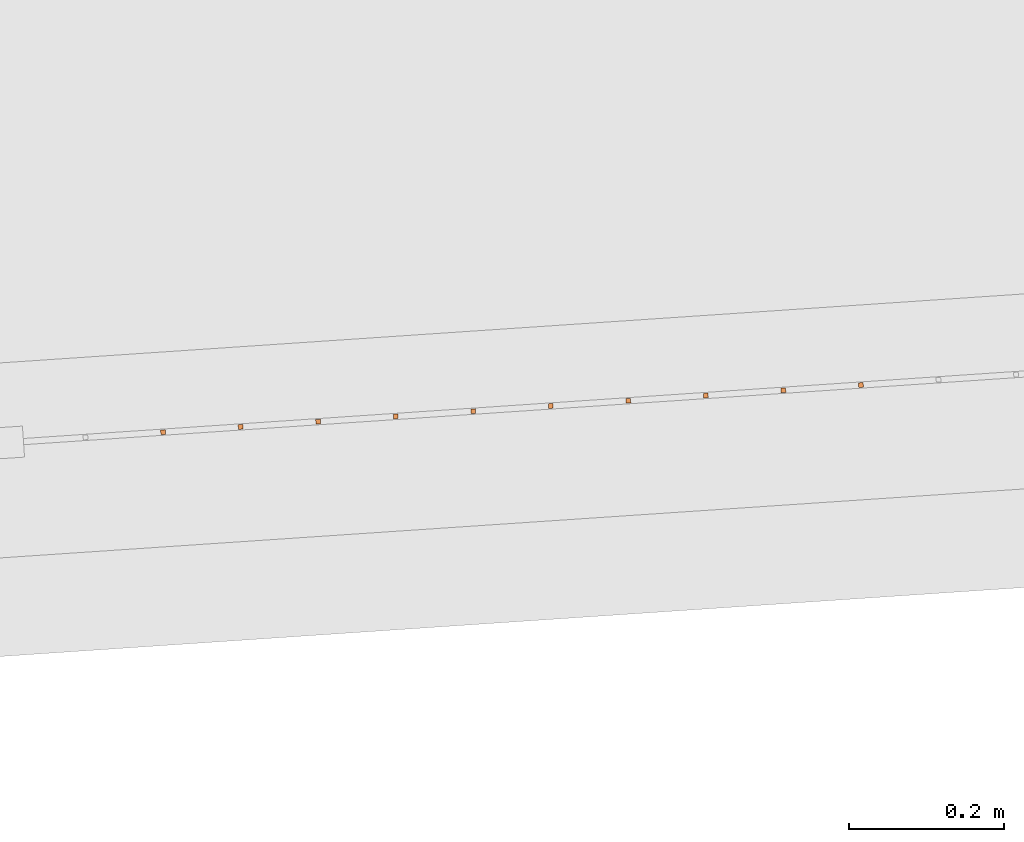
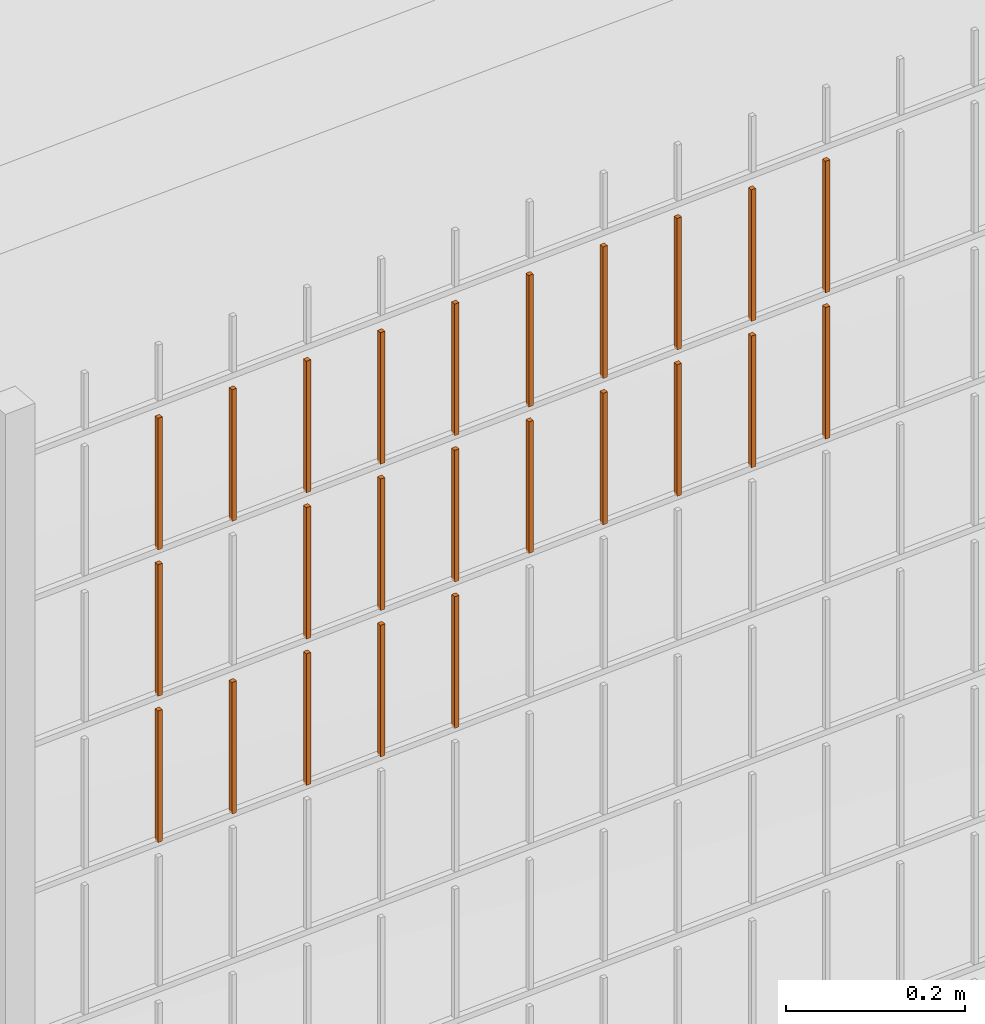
# One storey, part 382 of 1809: 24 proxies, 1 element without a shape of its own.
"""IFC2X3 building model written with IfcOpenShell, lengths in millimetres."""

from ifc_helpers import new_model, entity, si_unit, converted_unit, derived_unit, money_unit, direction, frame, origin_with_axes, place, context, subcontext, project, spatial, faceted_brep, source, transform, mapped, material, type_object, element, aggregate, save


model = new_model("IFC2X3")

# Units and contexts
model_context = context("Model", 3, precision=0.01, world=origin_with_axes(), true_north=direction((0.0, 1.0)))
body_context = subcontext(model_context, "Body", "Model", "MODEL_VIEW")
ifc_project = project(units=[si_unit("LENGTHUNIT", "METRE", prefix="MILLI"), si_unit("AREAUNIT", "SQUARE_METRE"), si_unit("VOLUMEUNIT", "CUBIC_METRE"), converted_unit("PLANEANGLEUNIT", "DEGREE", entity("IfcPlaneAngleMeasure", 0.0174532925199), si_unit("PLANEANGLEUNIT", "RADIAN"), dimensions=[0, 0, 0, 0, 0, 0, 0]), si_unit("SOLIDANGLEUNIT", "STERADIAN"), money_unit("EUR"), converted_unit("TIMEUNIT", "Year", entity("IfcTimeMeasure", 31556926.0), si_unit("TIMEUNIT", "SECOND"), dimensions=[0, 0, 1, 0, 0, 0, 0]), si_unit("MASSUNIT", "GRAM", prefix="KILO"), si_unit("THERMODYNAMICTEMPERATUREUNIT", "DEGREE_CELSIUS"), si_unit("LUMINOUSINTENSITYUNIT", "LUMEN"), si_unit("ENERGYUNIT", "JOULE", prefix="MEGA"), derived_unit("THERMALCONDUCTANCEUNIT", [(si_unit("POWERUNIT", "WATT"), 1), (si_unit("LENGTHUNIT", "METRE"), -1), (si_unit("THERMODYNAMICTEMPERATUREUNIT", "KELVIN"), -1)]), derived_unit("SPECIFICHEATCAPACITYUNIT", [(si_unit("ENERGYUNIT", "JOULE"), 1), (si_unit("MASSUNIT", "GRAM", prefix="KILO"), -1), (si_unit("THERMODYNAMICTEMPERATUREUNIT", "KELVIN"), -1)]), derived_unit("MASSDENSITYUNIT", [(si_unit("MASSUNIT", "GRAM", prefix="KILO"), 1), (si_unit("VOLUMEUNIT", "CUBIC_METRE"), -1)])], contexts=[model_context])

# Site, building, storey
site_placement = place(None, origin_with_axes())
site = spatial("IfcSite", under=ifc_project, at=site_placement, Name="Politse- ja Piirivalveameti ning Päästeameti ühishoone", CompositionType="ELEMENT")
building_placement = place(site_placement, origin_with_axes())
building = spatial("IfcBuilding", under=site, at=building_placement, Name="Politse- ja Piirivalveameti ning Päästeameti ühishoone", CompositionType="ELEMENT")
storey_placement = place(building_placement, origin_with_axes())
storey = spatial("IfcBuildingStorey", under=building, at=storey_placement, Name="Esimene korrus", CompositionType="ELEMENT", Elevation=0.0)

# Proxies
building_element_proxy_type_1 = type_object("IfcBuildingElementProxyType", Name="Railing Type", PredefinedType="NOTDEFINED")
proxy_1_placement = place(storey_placement, frame((89252.001212, -29183.4766571, 203.661247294), z_axis=(0.0, 0.0, 1.0), x_axis=(1.0, 0.0, 0.0)))
proxy_1 = element("IfcBuildingElementProxy", 1, at=proxy_1_placement, inside=storey, type_object=building_element_proxy_type_1, Name="PIIRDEAED")
ifc_material = material(Name="ET-03_Raud")
building_element_proxy_type_2 = type_object("IfcBuildingElementProxyType", Name="IfcBuildingElementProxy", PredefinedType="NOTDEFINED")
shared_shape_1 = source(origin_with_axes(), body_context, "Body", "Brep", [
    faceted_brep([(3.0, 3.0, -0.000752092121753), (-3.0, 3.0, -0.000752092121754), (-3.0, 3.0, 179.99926046), (3.0, 3.0, 179.99926046), (3.0, -3.0, 0.000752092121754), (-3.0, -3.0, 0.000752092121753), (-3.0, -3.0, 180.000764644), (3.0, -3.0, 180.000764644)], [[[0, 1, 2, 3]], [[0, 4, 5, 1]], [[1, 5, 6, 2]], [[3, 2, 6, 7]], [[4, 0, 3, 7]], [[5, 4, 7, 6]]]),
])
proxy_2_placement = place(proxy_1_placement, frame((-16588.8876971, -18418.2915213, 1623.0661185), z_axis=(0.0, 0.0, 1.0), x_axis=(1.0, 0.0, 0.0)))
proxy_2 = element("IfcBuildingElementProxy", 2, at=proxy_2_placement, type_object=building_element_proxy_type_2, material=ifc_material, Name="BALUSTER - 001", context=body_context, shape_type="MappedRepresentation", body=[
    mapped(shared_shape_1, transform((0.0, 0.0, 0.0), x_axis=(-0.0673926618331, 0.997726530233, 0.0), y_axis=(-0.997726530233, -0.0673926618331, 0.0), z_axis=(0.0, 0.0, 1.0))),
])
shared_shape_2 = source(origin_with_axes(), body_context, "Body", "Brep", [
    faceted_brep([(3.0, 3.0, -0.000752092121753), (-3.0, 3.0, -0.000752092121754), (-3.0, 3.0, 179.99926046), (3.0, 3.0, 179.99926046), (3.0, -3.0, 0.000752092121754), (-3.0, -3.0, 0.000752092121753), (-3.0, -3.0, 180.000764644), (3.0, -3.0, 180.000764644)], [[[0, 1, 2, 3]], [[0, 4, 5, 1]], [[1, 5, 6, 2]], [[3, 2, 6, 7]], [[4, 0, 3, 7]], [[5, 4, 7, 6]]]),
])
proxy_3_placement = place(proxy_1_placement, frame((-16588.8876971, -18418.2915213, 1823.0661185), z_axis=(0.0, 0.0, 1.0), x_axis=(1.0, 0.0, 0.0)))
proxy_3 = element("IfcBuildingElementProxy", 3, at=proxy_3_placement, type_object=building_element_proxy_type_2, material=ifc_material, Name="BALUSTER - 001", context=body_context, shape_type="MappedRepresentation", body=[
    mapped(shared_shape_2, transform((0.0, 0.0, 0.0), x_axis=(-0.0673926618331, 0.997726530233, 0.0), y_axis=(-0.997726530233, -0.0673926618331, 0.0), z_axis=(0.0, 0.0, 1.0))),
])
shared_shape_3 = source(origin_with_axes(), body_context, "Body", "Brep", [
    faceted_brep([(3.0, 3.0, -0.000752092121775), (-3.0, 3.0, -0.000752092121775), (-3.0, 3.0, 179.99926046), (3.0, 3.0, 179.99926046), (3.0, -3.0, 0.000752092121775), (-3.0, -3.0, 0.000752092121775), (-3.0, -3.0, 180.000764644), (3.0, -3.0, 180.000764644)], [[[0, 1, 2, 3]], [[0, 4, 5, 1]], [[1, 5, 6, 2]], [[3, 2, 6, 7]], [[4, 0, 3, 7]], [[5, 4, 7, 6]]]),
])
proxy_4_placement = place(proxy_1_placement, frame((-17087.7509622, -18451.9878523, 1822.94076981), z_axis=(0.0, 0.0, 1.0), x_axis=(1.0, 0.0, 0.0)))
proxy_4 = element("IfcBuildingElementProxy", 4, at=proxy_4_placement, type_object=building_element_proxy_type_2, material=ifc_material, Name="BALUSTER - 001", context=body_context, shape_type="MappedRepresentation", body=[
    mapped(shared_shape_3, transform((0.0, 0.0, 0.0), x_axis=(-0.0673926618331, 0.997726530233, 0.0), y_axis=(-0.997726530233, -0.0673926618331, 0.0), z_axis=(0.0, 0.0, 1.0))),
])
shared_shape_4 = source(origin_with_axes(), body_context, "Body", "Brep", [
    faceted_brep([(3.0, 3.0, -0.000752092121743), (-3.0, 3.0, -0.000752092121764), (-3.0, 3.0, 179.99926046), (3.0, 3.0, 179.99926046), (3.0, -3.0, 0.000752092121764), (-3.0, -3.0, 0.000752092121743), (-3.0, -3.0, 180.000764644), (3.0, -3.0, 180.000764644)], [[[0, 1, 2, 3]], [[0, 4, 5, 1]], [[1, 5, 6, 2]], [[3, 2, 6, 7]], [[4, 0, 3, 7]], [[5, 4, 7, 6]]]),
])
proxy_5_placement = place(proxy_1_placement, frame((-16289.569738, -18398.0737228, 1823.14132771), z_axis=(0.0, 0.0, 1.0), x_axis=(1.0, 0.0, 0.0)))
proxy_5 = element("IfcBuildingElementProxy", 5, at=proxy_5_placement, type_object=building_element_proxy_type_2, material=ifc_material, Name="BALUSTER - 001", context=body_context, shape_type="MappedRepresentation", body=[
    mapped(shared_shape_4, transform((0.0, 0.0, 0.0), x_axis=(-0.0673926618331, 0.997726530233, 0.0), y_axis=(-0.997726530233, -0.0673926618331, 0.0), z_axis=(0.0, 0.0, 1.0))),
])
proxy_6_placement = place(proxy_1_placement, frame((-16888.2056561, -18438.5093199, 1822.99090929), z_axis=(0.0, 0.0, 1.0), x_axis=(1.0, 0.0, 0.0)))
proxy_6 = element("IfcBuildingElementProxy", 6, at=proxy_6_placement, type_object=building_element_proxy_type_2, material=ifc_material, Name="BALUSTER - 001", context=body_context, shape_type="MappedRepresentation", body=[
    mapped(shared_shape_4, transform((0.0, 0.0, 0.0), x_axis=(-0.0673926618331, 0.997726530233, 0.0), y_axis=(-0.997726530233, -0.0673926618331, 0.0), z_axis=(0.0, 0.0, 1.0))),
])
shared_shape_5 = source(origin_with_axes(), body_context, "Body", "Brep", [
    faceted_brep([(3.0, 3.0, -0.000752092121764), (-3.0, 3.0, -0.000752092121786), (-3.0, 3.0, 179.99926046), (3.0, 3.0, 179.99926046), (3.0, -3.0, 0.000752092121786), (-3.0, -3.0, 0.000752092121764), (-3.0, -3.0, 180.000764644), (3.0, -3.0, 180.000764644)], [[[0, 1, 2, 3]], [[0, 4, 5, 1]], [[1, 5, 6, 2]], [[3, 2, 6, 7]], [[4, 0, 3, 7]], [[5, 4, 7, 6]]]),
])
proxy_7_placement = place(proxy_1_placement, frame((-16688.6603501, -18425.0307875, 1823.04104876), z_axis=(0.0, 0.0, 1.0), x_axis=(1.0, 0.0, 0.0)))
proxy_7 = element("IfcBuildingElementProxy", 7, at=proxy_7_placement, type_object=building_element_proxy_type_2, material=ifc_material, Name="BALUSTER - 001", context=body_context, shape_type="MappedRepresentation", body=[
    mapped(shared_shape_5, transform((0.0, 0.0, 0.0), x_axis=(-0.0673926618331, 0.997726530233, 0.0), y_axis=(-0.997726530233, -0.0673926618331, 0.0), z_axis=(0.0, 0.0, 1.0))),
])
shared_shape_6 = source(origin_with_axes(), body_context, "Body", "Brep", [
    faceted_brep([(3.0, 3.0, -0.000752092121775), (-3.0, 3.0, -0.000752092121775), (-3.0, 3.0, 179.99926046), (3.0, 3.0, 179.99926046), (3.0, -3.0, 0.000752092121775), (-3.0, -3.0, 0.000752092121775), (-3.0, -3.0, 180.000764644), (3.0, -3.0, 180.000764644)], [[[0, 1, 2, 3]], [[0, 4, 5, 1]], [[1, 5, 6, 2]], [[3, 2, 6, 7]], [[4, 0, 3, 7]], [[5, 4, 7, 6]]]),
])
proxy_8_placement = place(proxy_1_placement, frame((-16489.115044, -18411.5522552, 1823.09118824), z_axis=(0.0, 0.0, 1.0), x_axis=(1.0, 0.0, 0.0)))
proxy_8 = element("IfcBuildingElementProxy", 8, at=proxy_8_placement, type_object=building_element_proxy_type_2, material=ifc_material, Name="BALUSTER - 001", context=body_context, shape_type="MappedRepresentation", body=[
    mapped(shared_shape_6, transform((0.0, 0.0, 0.0), x_axis=(-0.0673926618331, 0.997726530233, 0.0), y_axis=(-0.997726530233, -0.0673926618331, 0.0), z_axis=(0.0, 0.0, 1.0))),
])
shared_shape_7 = source(origin_with_axes(), body_context, "Body", "Brep", [
    faceted_brep([(3.0, 3.0, -0.000752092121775), (-3.0, 3.0, -0.000752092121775), (-3.0, 3.0, 179.99926046), (3.0, 3.0, 179.99926046), (3.0, -3.0, 0.000752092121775), (-3.0, -3.0, 0.000752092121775), (-3.0, -3.0, 180.000764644), (3.0, -3.0, 180.000764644)], [[[0, 1, 2, 3]], [[0, 4, 5, 1]], [[1, 5, 6, 2]], [[3, 2, 6, 7]], [[4, 0, 3, 7]], [[5, 4, 7, 6]]]),
])
proxy_9_placement = place(proxy_1_placement, frame((-16389.342391, -18404.812989, 1823.11625797), z_axis=(0.0, 0.0, 1.0), x_axis=(1.0, 0.0, 0.0)))
proxy_9 = element("IfcBuildingElementProxy", 9, at=proxy_9_placement, type_object=building_element_proxy_type_2, material=ifc_material, Name="BALUSTER - 001", context=body_context, shape_type="MappedRepresentation", body=[
    mapped(shared_shape_7, transform((0.0, 0.0, 0.0), x_axis=(-0.0673926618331, 0.997726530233, 0.0), y_axis=(-0.997726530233, -0.0673926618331, 0.0), z_axis=(0.0, 0.0, 1.0))),
])
shared_shape_8 = source(origin_with_axes(), body_context, "Body", "Brep", [
    faceted_brep([(3.0, 3.0, -0.000752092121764), (-3.0, 3.0, -0.000752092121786), (-3.0, 3.0, 179.99926046), (3.0, 3.0, 179.99926046), (3.0, -3.0, 0.000752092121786), (-3.0, -3.0, 0.000752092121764), (-3.0, -3.0, 180.000764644), (3.0, -3.0, 180.000764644)], [[[0, 1, 2, 3]], [[0, 4, 5, 1]], [[1, 5, 6, 2]], [[3, 2, 6, 7]], [[4, 0, 3, 7]], [[5, 4, 7, 6]]]),
])
proxy_10_placement = place(proxy_1_placement, frame((-16189.797085, -18391.3344566, 1623.16639745), z_axis=(0.0, 0.0, 1.0), x_axis=(1.0, 0.0, 0.0)))
proxy_10 = element("IfcBuildingElementProxy", 10, at=proxy_10_placement, type_object=building_element_proxy_type_2, material=ifc_material, Name="BALUSTER - 001", context=body_context, shape_type="MappedRepresentation", body=[
    mapped(shared_shape_8, transform((0.0, 0.0, 0.0), x_axis=(-0.0673926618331, 0.997726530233, 0.0), y_axis=(-0.997726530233, -0.0673926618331, 0.0), z_axis=(0.0, 0.0, 1.0))),
])
shared_shape_9 = source(origin_with_axes(), body_context, "Body", "Brep", [
    faceted_brep([(3.0, 3.0, -0.000752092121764), (-3.0, 3.0, -0.000752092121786), (-3.0, 3.0, 179.99926046), (3.0, 3.0, 179.99926046), (3.0, -3.0, 0.000752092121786), (-3.0, -3.0, 0.000752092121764), (-3.0, -3.0, 180.000764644), (3.0, -3.0, 180.000764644)], [[[0, 1, 2, 3]], [[0, 4, 5, 1]], [[1, 5, 6, 2]], [[3, 2, 6, 7]], [[4, 0, 3, 7]], [[5, 4, 7, 6]]]),
])
proxy_11_placement = place(proxy_1_placement, frame((-16688.6603501, -18425.0307875, 1423.04104876), z_axis=(0.0, 0.0, 1.0), x_axis=(1.0, 0.0, 0.0)))
proxy_11 = element("IfcBuildingElementProxy", 11, at=proxy_11_placement, type_object=building_element_proxy_type_2, material=ifc_material, Name="BALUSTER - 001", context=body_context, shape_type="MappedRepresentation", body=[
    mapped(shared_shape_9, transform((0.0, 0.0, 0.0), x_axis=(-0.0673926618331, 0.997726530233, 0.0), y_axis=(-0.997726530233, -0.0673926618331, 0.0), z_axis=(0.0, 0.0, 1.0))),
])
shared_shape_10 = source(origin_with_axes(), body_context, "Body", "Brep", [
    faceted_brep([(3.0, 3.0, -0.000752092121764), (-3.0, 3.0, -0.000752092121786), (-3.0, 3.0, 179.99926046), (3.0, 3.0, 179.99926046), (3.0, -3.0, 0.000752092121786), (-3.0, -3.0, 0.000752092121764), (-3.0, -3.0, 180.000764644), (3.0, -3.0, 180.000764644)], [[[0, 1, 2, 3]], [[0, 4, 5, 1]], [[1, 5, 6, 2]], [[3, 2, 6, 7]], [[4, 0, 3, 7]], [[5, 4, 7, 6]]]),
])
proxy_12_placement = place(proxy_1_placement, frame((-16688.6603501, -18425.0307875, 1623.04104876), z_axis=(0.0, 0.0, 1.0), x_axis=(1.0, 0.0, 0.0)))
proxy_12 = element("IfcBuildingElementProxy", 12, at=proxy_12_placement, type_object=building_element_proxy_type_2, material=ifc_material, Name="BALUSTER - 001", context=body_context, shape_type="MappedRepresentation", body=[
    mapped(shared_shape_10, transform((0.0, 0.0, 0.0), x_axis=(-0.0673926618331, 0.997726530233, 0.0), y_axis=(-0.997726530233, -0.0673926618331, 0.0), z_axis=(0.0, 0.0, 1.0))),
])
shared_shape_11 = source(origin_with_axes(), body_context, "Body", "Brep", [
    faceted_brep([(3.0, 3.0, -0.000752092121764), (-3.0, 3.0, -0.000752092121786), (-3.0, 3.0, 179.99926046), (3.0, 3.0, 179.99926046), (3.0, -3.0, 0.000752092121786), (-3.0, -3.0, 0.000752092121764), (-3.0, -3.0, 180.000764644), (3.0, -3.0, 180.000764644)], [[[0, 1, 2, 3]], [[0, 4, 5, 1]], [[1, 5, 6, 2]], [[3, 2, 6, 7]], [[4, 0, 3, 7]], [[5, 4, 7, 6]]]),
])
proxy_13_placement = place(proxy_1_placement, frame((-16189.797085, -18391.3344566, 1823.16639745), z_axis=(0.0, 0.0, 1.0), x_axis=(1.0, 0.0, 0.0)))
proxy_13 = element("IfcBuildingElementProxy", 13, at=proxy_13_placement, type_object=building_element_proxy_type_2, material=ifc_material, Name="BALUSTER - 001", context=body_context, shape_type="MappedRepresentation", body=[
    mapped(shared_shape_11, transform((0.0, 0.0, 0.0), x_axis=(-0.0673926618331, 0.997726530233, 0.0), y_axis=(-0.997726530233, -0.0673926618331, 0.0), z_axis=(0.0, 0.0, 1.0))),
])
shared_shape_12 = source(origin_with_axes(), body_context, "Body", "Brep", [
    faceted_brep([(3.0, 3.0, -0.000752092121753), (-3.0, 3.0, -0.000752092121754), (-3.0, 3.0, 179.99926046), (3.0, 3.0, 179.99926046), (3.0, -3.0, 0.000752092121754), (-3.0, -3.0, 0.000752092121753), (-3.0, -3.0, 180.000764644), (3.0, -3.0, 180.000764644)], [[[0, 1, 2, 3]], [[0, 4, 5, 1]], [[1, 5, 6, 2]], [[3, 2, 6, 7]], [[4, 0, 3, 7]], [[5, 4, 7, 6]]]),
])
proxy_14_placement = place(proxy_1_placement, frame((-16987.9783091, -18445.2485861, 1822.96583955), z_axis=(0.0, 0.0, 1.0), x_axis=(1.0, 0.0, 0.0)))
proxy_14 = element("IfcBuildingElementProxy", 14, at=proxy_14_placement, type_object=building_element_proxy_type_2, material=ifc_material, Name="BALUSTER - 001", context=body_context, shape_type="MappedRepresentation", body=[
    mapped(shared_shape_12, transform((0.0, 0.0, 0.0), x_axis=(-0.0673926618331, 0.997726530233, 0.0), y_axis=(-0.997726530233, -0.0673926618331, 0.0), z_axis=(0.0, 0.0, 1.0))),
])
shared_shape_13 = source(origin_with_axes(), body_context, "Body", "Brep", [
    faceted_brep([(3.0, 3.0, -0.000752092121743), (-3.0, 3.0, -0.000752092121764), (-3.0, 3.0, 179.99926046), (3.0, 3.0, 179.99926046), (3.0, -3.0, 0.000752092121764), (-3.0, -3.0, 0.000752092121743), (-3.0, -3.0, 180.000764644), (3.0, -3.0, 180.000764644)], [[[0, 1, 2, 3]], [[0, 4, 5, 1]], [[1, 5, 6, 2]], [[3, 2, 6, 7]], [[4, 0, 3, 7]], [[5, 4, 7, 6]]]),
])
proxy_15_placement = place(proxy_1_placement, frame((-16788.4330031, -18431.7700537, 1423.01597902), z_axis=(0.0, 0.0, 1.0), x_axis=(1.0, 0.0, 0.0)))
proxy_15 = element("IfcBuildingElementProxy", 15, at=proxy_15_placement, type_object=building_element_proxy_type_2, material=ifc_material, Name="BALUSTER - 001", context=body_context, shape_type="MappedRepresentation", body=[
    mapped(shared_shape_13, transform((0.0, 0.0, 0.0), x_axis=(-0.0673926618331, 0.997726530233, 0.0), y_axis=(-0.997726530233, -0.0673926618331, 0.0), z_axis=(0.0, 0.0, 1.0))),
])
proxy_16_placement = place(proxy_1_placement, frame((-16788.4330031, -18431.7700537, 1623.01597902), z_axis=(0.0, 0.0, 1.0), x_axis=(1.0, 0.0, 0.0)))
proxy_16 = element("IfcBuildingElementProxy", 16, at=proxy_16_placement, type_object=building_element_proxy_type_2, material=ifc_material, Name="BALUSTER - 001", context=body_context, shape_type="MappedRepresentation", body=[
    mapped(shared_shape_13, transform((0.0, 0.0, 0.0), x_axis=(-0.0673926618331, 0.997726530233, 0.0), y_axis=(-0.997726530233, -0.0673926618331, 0.0), z_axis=(0.0, 0.0, 1.0))),
])
shared_shape_14 = source(origin_with_axes(), body_context, "Body", "Brep", [
    faceted_brep([(3.0, 3.0, -0.000752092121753), (-3.0, 3.0, -0.000752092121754), (-3.0, 3.0, 179.99926046), (3.0, 3.0, 179.99926046), (3.0, -3.0, 0.000752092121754), (-3.0, -3.0, 0.000752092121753), (-3.0, -3.0, 180.000764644), (3.0, -3.0, 180.000764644)], [[[0, 1, 2, 3]], [[0, 4, 5, 1]], [[1, 5, 6, 2]], [[3, 2, 6, 7]], [[4, 0, 3, 7]], [[5, 4, 7, 6]]]),
])
proxy_17_placement = place(proxy_1_placement, frame((-16987.9783091, -18445.2485861, 1422.96583955), z_axis=(0.0, 0.0, 1.0), x_axis=(1.0, 0.0, 0.0)))
proxy_17 = element("IfcBuildingElementProxy", 17, at=proxy_17_placement, type_object=building_element_proxy_type_2, material=ifc_material, Name="BALUSTER - 001", context=body_context, shape_type="MappedRepresentation", body=[
    mapped(shared_shape_14, transform((0.0, 0.0, 0.0), x_axis=(-0.0673926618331, 0.997726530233, 0.0), y_axis=(-0.997726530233, -0.0673926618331, 0.0), z_axis=(0.0, 0.0, 1.0))),
])
shared_shape_15 = source(origin_with_axes(), body_context, "Body", "Brep", [
    faceted_brep([(3.0, 3.0, -0.000752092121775), (-3.0, 3.0, -0.000752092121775), (-3.0, 3.0, 179.99926046), (3.0, 3.0, 179.99926046), (3.0, -3.0, 0.000752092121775), (-3.0, -3.0, 0.000752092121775), (-3.0, -3.0, 180.000764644), (3.0, -3.0, 180.000764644)], [[[0, 1, 2, 3]], [[0, 4, 5, 1]], [[1, 5, 6, 2]], [[3, 2, 6, 7]], [[4, 0, 3, 7]], [[5, 4, 7, 6]]]),
])
proxy_18_placement = place(proxy_1_placement, frame((-16489.115044, -18411.5522552, 1623.09118824), z_axis=(0.0, 0.0, 1.0), x_axis=(1.0, 0.0, 0.0)))
proxy_18 = element("IfcBuildingElementProxy", 18, at=proxy_18_placement, type_object=building_element_proxy_type_2, material=ifc_material, Name="BALUSTER - 001", context=body_context, shape_type="MappedRepresentation", body=[
    mapped(shared_shape_15, transform((0.0, 0.0, 0.0), x_axis=(-0.0673926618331, 0.997726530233, 0.0), y_axis=(-0.997726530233, -0.0673926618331, 0.0), z_axis=(0.0, 0.0, 1.0))),
])
shared_shape_16 = source(origin_with_axes(), body_context, "Body", "Brep", [
    faceted_brep([(3.0, 3.0, -0.000752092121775), (-3.0, 3.0, -0.000752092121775), (-3.0, 3.0, 179.99926046), (3.0, 3.0, 179.99926046), (3.0, -3.0, 0.000752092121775), (-3.0, -3.0, 0.000752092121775), (-3.0, -3.0, 180.000764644), (3.0, -3.0, 180.000764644)], [[[0, 1, 2, 3]], [[0, 4, 5, 1]], [[1, 5, 6, 2]], [[3, 2, 6, 7]], [[4, 0, 3, 7]], [[5, 4, 7, 6]]]),
])
proxy_19_placement = place(proxy_1_placement, frame((-16389.342391, -18404.812989, 1623.11625797), z_axis=(0.0, 0.0, 1.0), x_axis=(1.0, 0.0, 0.0)))
proxy_19 = element("IfcBuildingElementProxy", 19, at=proxy_19_placement, type_object=building_element_proxy_type_2, material=ifc_material, Name="BALUSTER - 001", context=body_context, shape_type="MappedRepresentation", body=[
    mapped(shared_shape_16, transform((0.0, 0.0, 0.0), x_axis=(-0.0673926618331, 0.997726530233, 0.0), y_axis=(-0.997726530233, -0.0673926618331, 0.0), z_axis=(0.0, 0.0, 1.0))),
])
shared_shape_17 = source(origin_with_axes(), body_context, "Body", "Brep", [
    faceted_brep([(3.0, 3.0, -0.000752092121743), (-3.0, 3.0, -0.000752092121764), (-3.0, 3.0, 179.99926046), (3.0, 3.0, 179.99926046), (3.0, -3.0, 0.000752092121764), (-3.0, -3.0, 0.000752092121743), (-3.0, -3.0, 180.000764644), (3.0, -3.0, 180.000764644)], [[[0, 1, 2, 3]], [[0, 4, 5, 1]], [[1, 5, 6, 2]], [[3, 2, 6, 7]], [[4, 0, 3, 7]], [[5, 4, 7, 6]]]),
])
proxy_20_placement = place(proxy_1_placement, frame((-16289.569738, -18398.0737228, 1623.14132771), z_axis=(0.0, 0.0, 1.0), x_axis=(1.0, 0.0, 0.0)))
proxy_20 = element("IfcBuildingElementProxy", 20, at=proxy_20_placement, type_object=building_element_proxy_type_2, material=ifc_material, Name="BALUSTER - 001", context=body_context, shape_type="MappedRepresentation", body=[
    mapped(shared_shape_17, transform((0.0, 0.0, 0.0), x_axis=(-0.0673926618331, 0.997726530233, 0.0), y_axis=(-0.997726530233, -0.0673926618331, 0.0), z_axis=(0.0, 0.0, 1.0))),
])
proxy_21_placement = place(proxy_1_placement, frame((-16788.4330031, -18431.7700537, 1823.01597902), z_axis=(0.0, 0.0, 1.0), x_axis=(1.0, 0.0, 0.0)))
proxy_21 = element("IfcBuildingElementProxy", 21, at=proxy_21_placement, type_object=building_element_proxy_type_2, material=ifc_material, Name="BALUSTER - 001", context=body_context, shape_type="MappedRepresentation", body=[
    mapped(shared_shape_17, transform((0.0, 0.0, 0.0), x_axis=(-0.0673926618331, 0.997726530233, 0.0), y_axis=(-0.997726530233, -0.0673926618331, 0.0), z_axis=(0.0, 0.0, 1.0))),
])
shared_shape_18 = source(origin_with_axes(), body_context, "Body", "Brep", [
    faceted_brep([(3.0, 3.0, -0.000752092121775), (-3.0, 3.0, -0.000752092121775), (-3.0, 3.0, 179.99926046), (3.0, 3.0, 179.99926046), (3.0, -3.0, 0.000752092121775), (-3.0, -3.0, 0.000752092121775), (-3.0, -3.0, 180.000764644), (3.0, -3.0, 180.000764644)], [[[0, 1, 2, 3]], [[0, 4, 5, 1]], [[1, 5, 6, 2]], [[3, 2, 6, 7]], [[4, 0, 3, 7]], [[5, 4, 7, 6]]]),
])
proxy_22_placement = place(proxy_1_placement, frame((-17087.7509622, -18451.9878523, 1422.94076981), z_axis=(0.0, 0.0, 1.0), x_axis=(1.0, 0.0, 0.0)))
proxy_22 = element("IfcBuildingElementProxy", 22, at=proxy_22_placement, type_object=building_element_proxy_type_2, material=ifc_material, Name="BALUSTER - 001", context=body_context, shape_type="MappedRepresentation", body=[
    mapped(shared_shape_18, transform((0.0, 0.0, 0.0), x_axis=(-0.0673926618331, 0.997726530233, 0.0), y_axis=(-0.997726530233, -0.0673926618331, 0.0), z_axis=(0.0, 0.0, 1.0))),
])
proxy_23_placement = place(proxy_1_placement, frame((-17087.7509622, -18451.9878523, 1622.94076981), z_axis=(0.0, 0.0, 1.0), x_axis=(1.0, 0.0, 0.0)))
proxy_23 = element("IfcBuildingElementProxy", 23, at=proxy_23_placement, type_object=building_element_proxy_type_2, material=ifc_material, Name="BALUSTER - 001", context=body_context, shape_type="MappedRepresentation", body=[
    mapped(shared_shape_18, transform((0.0, 0.0, 0.0), x_axis=(-0.0673926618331, 0.997726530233, 0.0), y_axis=(-0.997726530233, -0.0673926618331, 0.0), z_axis=(0.0, 0.0, 1.0))),
])
shared_shape_19 = source(origin_with_axes(), body_context, "Body", "Brep", [
    faceted_brep([(3.0, 3.0, -0.000752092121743), (-3.0, 3.0, -0.000752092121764), (-3.0, 3.0, 179.99926046), (3.0, 3.0, 179.99926046), (3.0, -3.0, 0.000752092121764), (-3.0, -3.0, 0.000752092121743), (-3.0, -3.0, 180.000764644), (3.0, -3.0, 180.000764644)], [[[0, 1, 2, 3]], [[0, 4, 5, 1]], [[1, 5, 6, 2]], [[3, 2, 6, 7]], [[4, 0, 3, 7]], [[5, 4, 7, 6]]]),
])
proxy_24_placement = place(proxy_1_placement, frame((-16888.2056561, -18438.5093199, 1422.99090929), z_axis=(0.0, 0.0, 1.0), x_axis=(1.0, 0.0, 0.0)))
proxy_24 = element("IfcBuildingElementProxy", 24, at=proxy_24_placement, type_object=building_element_proxy_type_2, material=ifc_material, Name="BALUSTER - 001", context=body_context, shape_type="MappedRepresentation", body=[
    mapped(shared_shape_19, transform((0.0, 0.0, 0.0), x_axis=(-0.0673926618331, 0.997726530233, 0.0), y_axis=(-0.997726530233, -0.0673926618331, 0.0), z_axis=(0.0, 0.0, 1.0))),
])
proxy_25_placement = place(proxy_1_placement, frame((-16888.2056561, -18438.5093199, 1622.99090929), z_axis=(0.0, 0.0, 1.0), x_axis=(1.0, 0.0, 0.0)))
proxy_25 = element("IfcBuildingElementProxy", 25, at=proxy_25_placement, type_object=building_element_proxy_type_2, material=ifc_material, Name="BALUSTER - 001", context=body_context, shape_type="MappedRepresentation", body=[
    mapped(shared_shape_19, transform((0.0, 0.0, 0.0), x_axis=(-0.0673926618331, 0.997726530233, 0.0), y_axis=(-0.997726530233, -0.0673926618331, 0.0), z_axis=(0.0, 0.0, 1.0))),
])
aggregate(proxy_1, [proxy_11, proxy_15, proxy_24, proxy_17, proxy_22, proxy_10, proxy_20, proxy_19, proxy_18, proxy_2, proxy_12, proxy_16, proxy_25, proxy_23, proxy_13, proxy_5, proxy_9, proxy_8, proxy_3, proxy_7, proxy_21, proxy_6, proxy_14, proxy_4])

save(model, "model.ifc")
